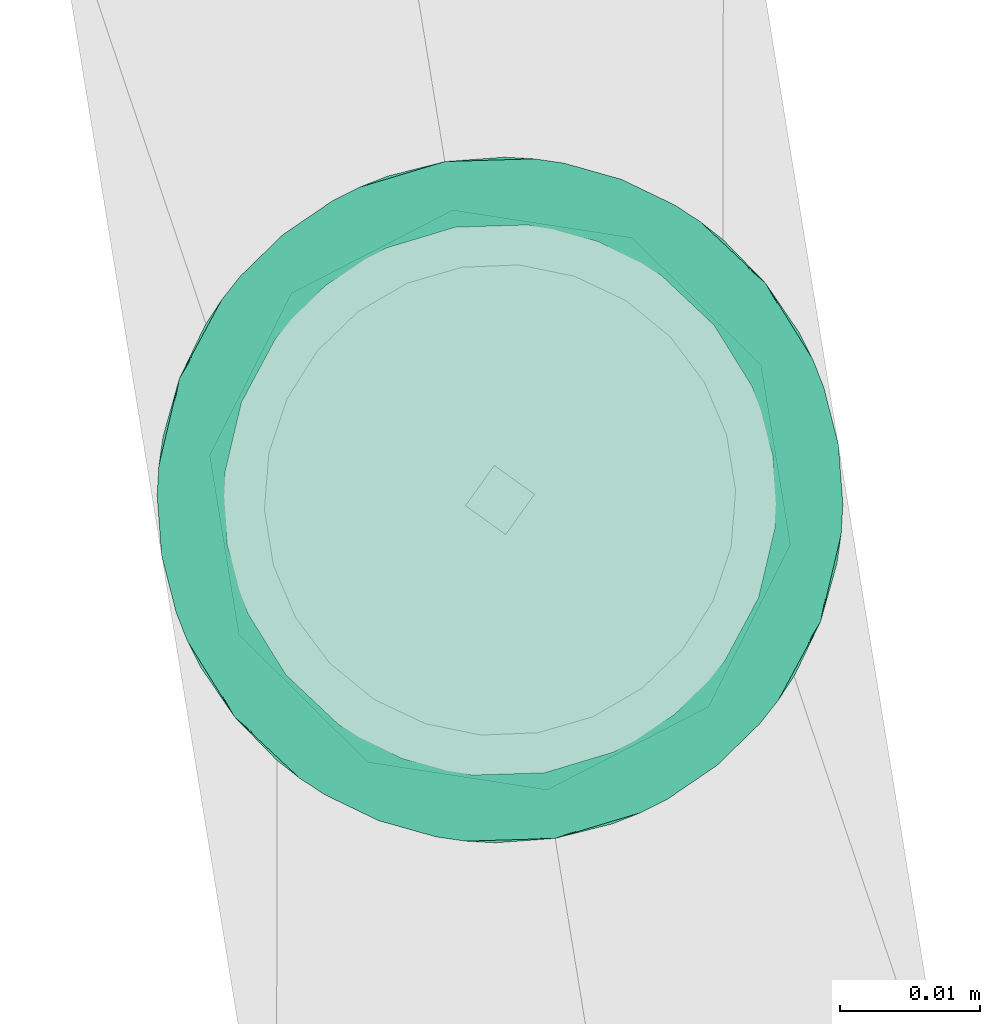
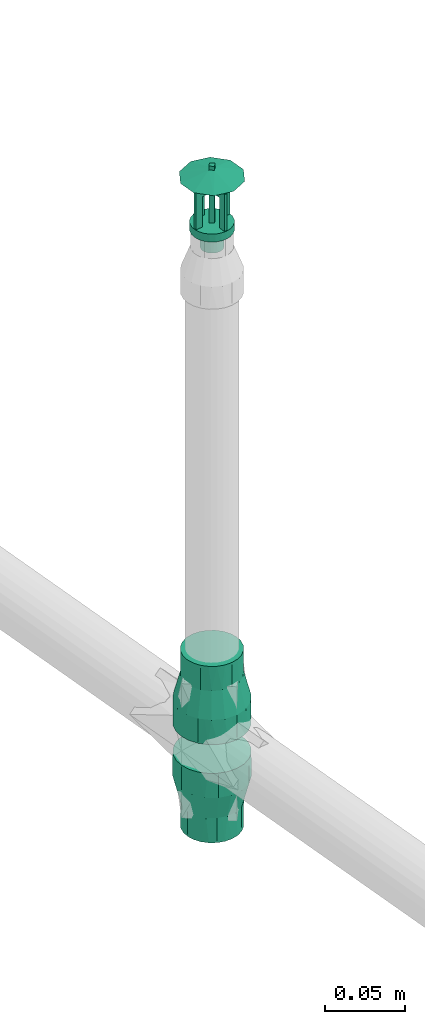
# One storey, part 43 of 56: 2 flow fittings, 1 flow terminal.
"""IFC2X3 building model written with IfcOpenShell, lengths in millimetres."""

from ifc_helpers import new_model, entity, si_unit, converted_unit, derived_unit, direction, frame, origin, origin_with_axes, place, context, subcontext, project, spatial, faceted_brep, source, transform, mapped, material, type_object, element, save


model = new_model("IFC2X3")

# Units and contexts
model_context = context("Model", 3, precision=0.01, world=origin(), true_north=direction((6.12323399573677e-17, 1.0)))
plan_context = context("Plan", 3, precision=1e-05, world=origin_with_axes())
body_context = subcontext(model_context, "Body", "Model", "MODEL_VIEW")
ifc_project = project(units=[converted_unit("PLANEANGLEUNIT", "DEGREE", entity("IfcPositiveLengthMeasure", 0.0174532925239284), si_unit("PLANEANGLEUNIT", "RADIAN"), dimensions=[0, 0, 0, 0, 0, 0, 0]), si_unit("AREAUNIT", "SQUARE_METRE"), si_unit("LENGTHUNIT", "METRE", prefix="MILLI"), si_unit("MASSUNIT", "GRAM", prefix="KILO"), si_unit("POWERUNIT", "WATT"), si_unit("PRESSUREUNIT", "PASCAL", prefix="KILO"), si_unit("FORCEUNIT", "NEWTON", prefix="KILO"), si_unit("ELECTRICVOLTAGEUNIT", "VOLT"), si_unit("ELECTRICCURRENTUNIT", "AMPERE"), si_unit("THERMODYNAMICTEMPERATUREUNIT", "DEGREE_CELSIUS"), si_unit("TIMEUNIT", "SECOND"), si_unit("VOLUMEUNIT", "CUBIC_METRE"), derived_unit("LINEARVELOCITYUNIT", [(si_unit("LENGTHUNIT", "METRE"), 1), (si_unit("TIMEUNIT", "SECOND"), -1)]), derived_unit("VOLUMETRICFLOWRATEUNIT", [(si_unit("VOLUMEUNIT", "CUBIC_METRE"), 1), (si_unit("TIMEUNIT", "SECOND"), -1)]), derived_unit("THERMALTRANSMITTANCEUNIT", [(si_unit("POWERUNIT", "WATT"), 1), (si_unit("THERMODYNAMICTEMPERATUREUNIT", "KELVIN"), -1), (si_unit("AREAUNIT", "SQUARE_METRE"), -1)]), derived_unit("SOUNDPRESSUREUNIT", [(si_unit("PRESSUREUNIT", "PASCAL"), 1)])], contexts=[model_context, plan_context])

# Site, building, storey
site_placement = place(None, frame((-3.09682673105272e-06, 1.93776733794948e-05, 0.0), z_axis=(0.0, 0.0, 1.0), x_axis=(-0.160806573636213, 0.986985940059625, 0.0)))
site = spatial("IfcSite", under=ifc_project, at=site_placement, Name="Default", CompositionType="ELEMENT")
building_placement = place(site_placement, frame((0.0, 0.0, 0.0), z_axis=(0.0, 0.0, 1.0), x_axis=(1.0, -2.77555756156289e-17, 0.0)))
building = spatial("IfcBuilding", under=site, at=building_placement, Name="Bygning (endres i Project Information)", CompositionType="ELEMENT")
storey_placement = place(building_placement, frame((0.0, 0.0, 51360.0000000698), z_axis=(0.0, 0.0, 1.0), x_axis=(1.0, -2.77555756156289e-17, 0.0)))
storey = spatial("IfcBuildingStorey", under=building, at=storey_placement, Name="H01-Nivå D+0,36", CompositionType="ELEMENT", Elevation=51360.0000000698)

# Flow fittings
ifc_material = material(Name="3320.001")
pipe_fitting_type_1 = type_object("IfcPipeFittingType", Name="RS_53_PIF_UN_Reducing-Socket-EN10241_MC_gen:RS_53_PIF_UN_Reducing-Socket-EN10241_MC_gen", PredefinedType="NOTDEFINED", material=ifc_material)
shared_shape_1 = source(origin(), body_context, "Body", "Brep", [
    faceted_brep([(0.0, 0.0, 24.5), (0.0, 6.34106660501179, 23.6651827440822), (0.0, 12.25, 21.2176223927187), (0.0, 17.3241161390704, 17.3241161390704), (0.0, 21.2176223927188, 12.25), (0.0, 23.6651827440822, 6.34106660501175), (0.0, 24.5, 0.0), (0.0, 23.6651827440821, -6.34106660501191), (0.0, 21.2176223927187, -12.2500000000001), (0.0, 17.3241161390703, -17.3241161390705), (0.0, 12.2499999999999, -21.2176223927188), (0.0, 6.34106660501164, -23.6651827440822), (0.0, 0.0, -24.5), (0.0, -6.34106660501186, -23.6651827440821), (0.0, -12.2500000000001, -21.2176223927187), (0.0, -17.3241161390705, -17.3241161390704), (0.0, -21.2176223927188, -12.2499999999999), (0.0, -23.6651827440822, -6.34106660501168), (0.0, -24.5, 0.0), (0.0, -23.6651827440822, 6.34106660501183), (0.0, -21.2176223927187, 12.2500000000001), (0.0, -17.3241161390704, 17.3241161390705), (0.0, -12.25, 21.2176223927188), (0.0, -6.34106660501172, 23.6651827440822), (18.6666666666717, -8.25137606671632, -22.6729794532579), (18.6666666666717, -18.7677686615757, -15.7486780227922), (18.6666666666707, -20.8950763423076, -12.0642027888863), (18.6666666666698, -23.0223840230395, -8.37972755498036), (18.6666666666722, -12.2493529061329, -21.2179959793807), (18.6666666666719, -15.5085607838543, -18.4833370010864), (18.6666666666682, -23.7125607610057, -4.46565710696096), (18.6666666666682, -23.7611920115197, -4.18986377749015), (18.6666666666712, -4.25339922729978, -24.1279629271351), (18.6666666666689, 4.25560674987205, -24.1275736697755), (18.6666666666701, 0.00110376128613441, -24.1277682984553), (18.6666666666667, -24.5, 0.0), (18.6666666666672, 8.25345045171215, -22.6722244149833), (18.6666666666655, 12.2512941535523, -21.2168751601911), (18.6666666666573, 23.0231506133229, -8.37762113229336), (18.6666666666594, 20.8961800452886, -12.062290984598), (18.6666666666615, 18.7692094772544, -15.7469608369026), (18.6666666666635, 15.5102518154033, -18.4819179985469), (18.6666666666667, 24.5, 0.0), (18.6666666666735, 18.7692094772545, 15.7469608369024), (18.666666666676, 20.8961800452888, 12.0622909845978), (18.6666666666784, 23.023150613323, 8.3776211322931), (18.6666666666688, 12.2512941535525, 21.216875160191), (18.6666666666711, 15.5102518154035, 18.4819179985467), (18.6666666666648, 4.25560674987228, 24.1275736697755), (18.6666666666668, 8.25345045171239, 22.6722244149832), (18.6666666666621, -4.25339922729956, 24.1279629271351), (18.6666666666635, 0.00110376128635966, 24.1277682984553), (18.6666666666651, -23.7611920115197, 4.1898637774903), (18.6666666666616, -8.25137606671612, 22.672979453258), (18.666666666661, -12.2493529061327, 21.2179959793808), (18.6666666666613, -15.5085607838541, 18.4833370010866), (18.6666666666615, -18.7677686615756, 15.7486780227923), (18.6666666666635, -23.0223840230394, 8.37972755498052), (18.6666666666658, -23.7125607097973, 4.46565739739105), (18.6666666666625, -20.8950763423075, 12.0642027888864), (37.3333333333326, 19.750000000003, 0.0), (37.3333333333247, 18.5595959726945, -6.75306577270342), (37.3333333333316, 9.87626627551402, -17.1032705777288), (37.3333333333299, 12.5033702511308, -14.8985095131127), (37.3333333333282, 15.1304742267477, -12.6937484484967), (37.3333333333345, 3.43075149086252, -19.4497414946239), (37.333333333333, 6.65350888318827, -18.2765060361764), (37.3333333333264, 16.8450350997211, -9.72340711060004), (37.3333333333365, -3.42859151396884, -19.4501223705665), (37.3333333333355, 0.00107998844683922, -19.4499319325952), (37.3333333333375, -9.87436684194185, -17.1043672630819), (37.333333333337, -6.65147917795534, -18.2772448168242), (37.3333333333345, -19.1544229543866, -3.37756341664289), (37.3333333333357, -18.558845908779, -6.75512683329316), (37.3333333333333, -19.7499999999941, 0.0), (37.3333333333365, -16.8439551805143, -9.72527774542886), (37.3333333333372, -15.1290644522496, -12.6954286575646), (37.3333333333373, -12.5017156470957, -14.8998979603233), (37.3333333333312, -18.5588459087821, 6.755126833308), (37.3333333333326, -19.1544229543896, 3.37756341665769), (37.3333333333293, -15.1290644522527, 12.6954286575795), (37.3333333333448, 18.559595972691, 6.75306577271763), (37.3333333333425, 16.8450350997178, 9.72340711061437), (37.3333333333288, -9.87436684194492, 17.104367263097), (37.3333333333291, -12.5017156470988, 14.8998979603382), (37.3333333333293, -6.65147917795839, 18.2772448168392), (37.3333333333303, -16.8439551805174, 9.72527774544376), (37.333333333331, 0.00107998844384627, 19.4499319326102), (37.3333333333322, 3.43075149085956, 19.4497414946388), (37.3333333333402, 15.1304742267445, 12.6937484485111), (37.333333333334, 6.65350888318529, 18.2765060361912), (37.3333333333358, 9.87626627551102, 17.1032705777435), (37.333333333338, 12.5033702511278, 14.8985095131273), (37.3333333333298, -3.42859151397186, 19.4501223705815), (56.0, 5.11167614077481, -19.0770350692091), (56.0, 9.87500000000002, -17.1040017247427), (56.0, 13.9653589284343, -13.9653589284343), (56.0, 17.1040017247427, -9.87499999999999), (56.0, 19.0770350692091, -5.11167614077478), (56.0, 19.75, 0.0), (56.0, 19.0770350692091, 5.1116761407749), (56.0, 17.1040017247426, 9.8750000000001), (56.0, 13.9653589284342, 13.9653589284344), (56.0, 9.87499999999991, 17.1040017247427), (56.0, 5.11167614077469, 19.0770350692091), (56.0, 0.0, 19.75), (56.0, -5.11167614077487, 19.0770350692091), (56.0, -9.87500000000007, 17.1040017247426), (56.0, -13.9653589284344, 13.9653589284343), (56.0, -17.1040017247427, 9.87499999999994), (56.0, -19.0770350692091, 5.11167614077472), (56.0, -19.75, 0.0), (56.0, -19.0770350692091, -5.11167614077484), (56.0, -17.1040017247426, -9.87500000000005), (56.0, -13.9653589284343, -13.9653589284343), (56.0, -9.87499999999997, -17.1040017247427), (56.0, -5.11167614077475, -19.0770350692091), (56.0, 0.0, -19.75)], [[[0, 1, 2, 3, 4, 5, 6, 7, 8, 9, 10, 11, 12, 13, 14, 15, 16, 17, 18, 19, 20, 21, 22, 23]], [[24, 14, 13]], [[16, 15, 25]], [[16, 25, 26, 27]], [[28, 29, 14]], [[17, 27, 30, 31]], [[31, 18, 17]], [[16, 27, 17]], [[13, 32, 24]], [[25, 15, 29]], [[12, 33, 34, 32]], [[24, 28, 14]], [[14, 29, 15]], [[31, 35, 18]], [[33, 12, 11]], [[36, 10, 37]], [[8, 38, 39, 40]], [[10, 36, 11]], [[8, 7, 38]], [[9, 40, 41]], [[33, 11, 36]], [[8, 40, 9]], [[41, 37, 10]], [[7, 42, 38]], [[7, 6, 42]], [[12, 32, 13]], [[41, 10, 9]], [[42, 6, 5]], [[4, 3, 43]], [[4, 43, 44, 45]], [[46, 47, 2]], [[45, 42, 5]], [[1, 48, 49]], [[43, 3, 47]], [[0, 50, 51, 48]], [[2, 47, 3]], [[50, 0, 23]], [[0, 48, 1]], [[18, 52, 19]], [[53, 22, 54]], [[49, 2, 1]], [[55, 22, 21]], [[35, 52, 18]], [[4, 45, 5]], [[22, 53, 23]], [[21, 56, 55]], [[50, 23, 53]], [[49, 46, 2]], [[20, 56, 21]], [[57, 20, 19]], [[19, 52, 58, 57]], [[55, 54, 22]], [[59, 56, 20, 57]], [[42, 60, 61]], [[41, 62, 37]], [[63, 40, 64]], [[40, 39, 64]], [[33, 36, 65]], [[65, 36, 66]], [[38, 42, 61]], [[64, 39, 67]], [[41, 40, 63]], [[36, 37, 66]], [[62, 41, 63]], [[38, 67, 39]], [[68, 34, 69]], [[68, 32, 34]], [[24, 70, 28]], [[32, 68, 71]], [[72, 35, 31, 30]], [[73, 27, 26]], [[72, 74, 35]], [[26, 75, 73]], [[76, 25, 29]], [[29, 77, 76]], [[70, 24, 71]], [[24, 32, 71]], [[70, 77, 28]], [[76, 75, 25]], [[28, 77, 29]], [[25, 75, 26]], [[73, 30, 27]], [[30, 73, 72]], [[66, 37, 62]], [[69, 34, 33]], [[69, 33, 65]], [[67, 38, 61]], [[78, 58, 79]], [[80, 55, 56]], [[81, 45, 82]], [[78, 59, 57]], [[83, 53, 54]], [[55, 80, 84]], [[79, 58, 52, 35]], [[78, 57, 58]], [[84, 54, 55]], [[85, 50, 53]], [[79, 35, 74]], [[86, 56, 59]], [[84, 83, 54]], [[48, 87, 88]], [[49, 48, 88]], [[59, 78, 86]], [[53, 83, 85]], [[87, 48, 51]], [[81, 60, 42]], [[44, 43, 89]], [[90, 46, 49]], [[47, 46, 91]], [[86, 80, 56]], [[82, 45, 44]], [[49, 88, 90]], [[92, 43, 47]], [[91, 46, 90]], [[51, 50, 93]], [[42, 45, 81]], [[85, 93, 50]], [[44, 89, 82]], [[51, 93, 87]], [[47, 91, 92]], [[89, 43, 92]], [[94, 95, 96, 97, 98, 99, 100, 101, 102, 103, 104, 105, 106, 107, 108, 109, 110, 111, 112, 113, 114, 115, 116, 117]], [[60, 99, 98]], [[97, 96, 64]], [[97, 64, 67, 61]], [[62, 63, 95]], [[61, 60, 98]], [[94, 65, 66]], [[64, 96, 63]], [[117, 68, 69, 65]], [[95, 63, 96]], [[117, 116, 68]], [[77, 70, 115]], [[66, 95, 94]], [[115, 70, 71]], [[113, 112, 73]], [[115, 71, 116]], [[117, 65, 94]], [[97, 61, 98]], [[72, 111, 74]], [[71, 68, 116]], [[113, 76, 114]], [[114, 76, 77]], [[77, 115, 114]], [[113, 73, 75, 76]], [[111, 72, 112]], [[66, 62, 95]], [[72, 73, 112]], [[85, 107, 106]], [[109, 108, 80]], [[109, 80, 86, 78]], [[83, 84, 107]], [[110, 78, 79]], [[79, 111, 110]], [[109, 78, 110]], [[106, 93, 85]], [[80, 108, 84]], [[105, 88, 87, 93]], [[85, 83, 107]], [[107, 84, 108]], [[79, 74, 111]], [[88, 105, 104]], [[90, 103, 91]], [[101, 81, 82, 89]], [[103, 90, 104]], [[101, 100, 81]], [[102, 89, 92]], [[88, 104, 90]], [[101, 89, 102]], [[92, 91, 103]], [[100, 60, 81]], [[100, 99, 60]], [[105, 93, 106]], [[92, 103, 102]]]),
])
flow_fitting_1_placement = place(storey_placement, frame((1000236.26325463, -392286.663841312, 3380.93333333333), z_axis=(2.77555756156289e-17, 1.0, 0.0), x_axis=(0.0, 0.0, 1.0)))
element("IfcFlowFitting", 1, at=flow_fitting_1_placement, inside=storey, type_object=pipe_fitting_type_1, material=ifc_material, Name="RS_53_PIF_UN_Reducing-Socket-EN10241_MC_gen:RS_53_PIF_UN_Reducing-Socket-EN10241_MC_gen", ObjectType="RS_53_PIF_UN_Reducing-Socket-EN10241_MC_gen:RS_53_PIF_UN_Reducing-Socket-EN10241_MC_gen", context=body_context, shape_type="MappedRepresentation", body=[
    mapped(shared_shape_1, transform((0.0, 0.0, 0.0), scale=1.0)),
])
pipe_fitting_type_2 = type_object("IfcPipeFittingType", Name="RS_53_PIF_UN_Reducing-Socket-EN10241_MC_gen:RS_53_PIF_UN_Reducing-Socket-EN10241_MC_gen", PredefinedType="NOTDEFINED", material=ifc_material)
shared_shape_2 = source(origin(), body_context, "Body", "Brep", [
    faceted_brep([(0.0, -12.25, 21.2176223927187), (0.0, -6.34106660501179, 23.6651827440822), (0.0, 0.0, 24.5), (0.0, 6.34106660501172, 23.6651827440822), (0.0, 12.25, 21.2176223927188), (0.0, 17.3241161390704, 17.3241161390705), (0.0, 21.2176223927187, 12.2500000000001), (0.0, 23.6651827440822, 6.34106660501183), (0.0, 24.5, 0.0), (0.0, 23.6651827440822, -6.34106660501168), (0.0, 21.2176223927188, -12.2499999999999), (0.0, 17.3241161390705, -17.3241161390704), (0.0, 12.2500000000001, -21.2176223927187), (0.0, 6.34106660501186, -23.6651827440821), (0.0, 0.0, -24.5), (0.0, -6.34106660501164, -23.6651827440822), (0.0, -12.2499999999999, -21.2176223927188), (0.0, -17.3241161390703, -17.3241161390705), (0.0, -21.2176223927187, -12.2500000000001), (0.0, -23.6651827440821, -6.34106660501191), (0.0, -24.5, 0.0), (0.0, -23.6651827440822, 6.34106660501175), (0.0, -21.2176223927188, 12.25), (0.0, -17.3241161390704, 17.3241161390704), (18.6666666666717, 8.25137606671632, -22.6729794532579), (18.6666666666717, 18.7677686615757, -15.7486780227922), (18.6666666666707, 20.8950763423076, -12.0642027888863), (18.6666666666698, 23.0223840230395, -8.37972755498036), (18.6666666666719, 15.5085607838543, -18.4833370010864), (18.6666666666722, 12.2493529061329, -21.2179959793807), (18.6666666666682, 23.7611920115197, -4.18986377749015), (18.6666666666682, 23.7125607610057, -4.46565710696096), (18.6666666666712, 4.25339922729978, -24.1279629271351), (18.6666666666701, -0.00110376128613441, -24.1277682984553), (18.6666666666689, -4.25560674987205, -24.1275736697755), (18.6666666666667, 24.5, 0.0), (18.6666666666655, -12.2512941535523, -21.2168751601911), (18.6666666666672, -8.25345045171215, -22.6722244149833), (18.6666666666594, -20.8961800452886, -12.062290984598), (18.6666666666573, -23.0231506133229, -8.37762113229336), (18.6666666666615, -18.7692094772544, -15.7469608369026), (18.6666666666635, -15.5102518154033, -18.4819179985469), (18.6666666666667, -24.5, 0.0), (18.6666666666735, -18.7692094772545, 15.7469608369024), (18.666666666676, -20.8961800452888, 12.0622909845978), (18.6666666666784, -23.023150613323, 8.3776211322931), (18.6666666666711, -15.5102518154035, 18.4819179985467), (18.6666666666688, -12.2512941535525, 21.216875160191), (18.6666666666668, -8.25345045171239, 22.6722244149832), (18.6666666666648, -4.25560674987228, 24.1275736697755), (18.6666666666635, -0.00110376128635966, 24.1277682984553), (18.6666666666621, 4.25339922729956, 24.1279629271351), (18.6666666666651, 23.7611920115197, 4.1898637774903), (18.666666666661, 12.2493529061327, 21.2179959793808), (18.6666666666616, 8.25137606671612, 22.672979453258), (18.6666666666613, 15.5085607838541, 18.4833370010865), (18.6666666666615, 18.7677686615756, 15.7486780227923), (18.6666666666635, 23.0223840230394, 8.37972755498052), (18.6666666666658, 23.7125607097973, 4.46565739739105), (18.6666666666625, 20.8950763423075, 12.0642027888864), (37.3333333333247, -18.5595959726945, -6.75306577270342), (37.3333333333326, -19.750000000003, 0.0), (37.3333333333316, -9.87626627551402, -17.1032705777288), (37.3333333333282, -15.1304742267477, -12.6937484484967), (37.3333333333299, -12.5033702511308, -14.8985095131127), (37.3333333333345, -3.43075149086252, -19.4497414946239), (37.333333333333, -6.65350888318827, -18.2765060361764), (37.3333333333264, -16.8450350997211, -9.72340711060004), (37.3333333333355, -0.00107998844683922, -19.4499319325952), (37.3333333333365, 3.42859151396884, -19.4501223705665), (37.3333333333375, 9.87436684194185, -17.1043672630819), (37.333333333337, 6.65147917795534, -18.2772448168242), (37.3333333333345, 19.1544229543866, -3.37756341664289), (37.3333333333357, 18.558845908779, -6.75512683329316), (37.3333333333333, 19.7499999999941, 0.0), (37.3333333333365, 16.8439551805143, -9.72527774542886), (37.3333333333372, 15.1290644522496, -12.6954286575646), (37.3333333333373, 12.5017156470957, -14.8998979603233), (37.3333333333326, 19.1544229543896, 3.37756341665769), (37.3333333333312, 18.5588459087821, 6.755126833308), (37.3333333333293, 15.1290644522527, 12.6954286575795), (37.3333333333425, -16.8450350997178, 9.72340711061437), (37.3333333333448, -18.559595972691, 6.75306577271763), (37.3333333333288, 9.87436684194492, 17.104367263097), (37.3333333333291, 12.5017156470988, 14.8998979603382), (37.3333333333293, 6.65147917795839, 18.2772448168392), (37.3333333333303, 16.8439551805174, 9.72527774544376), (37.3333333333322, -3.43075149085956, 19.4497414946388), (37.333333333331, -0.00107998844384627, 19.4499319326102), (37.3333333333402, -15.1304742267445, 12.6937484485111), (37.333333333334, -6.65350888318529, 18.2765060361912), (37.3333333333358, -9.87626627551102, 17.1032705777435), (37.333333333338, -12.5033702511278, 14.8985095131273), (37.3333333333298, 3.42859151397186, 19.4501223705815), (56.0, 0.0, -19.75), (56.0, 5.11167614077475, -19.0770350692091), (56.0, 9.87499999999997, -17.1040017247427), (56.0, 13.9653589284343, -13.9653589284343), (56.0, 17.1040017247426, -9.87500000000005), (56.0, 19.0770350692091, -5.11167614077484), (56.0, 19.75, 0.0), (56.0, 19.0770350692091, 5.11167614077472), (56.0, 17.1040017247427, 9.87499999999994), (56.0, 13.9653589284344, 13.9653589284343), (56.0, 9.87500000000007, 17.1040017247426), (56.0, 5.11167614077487, 19.0770350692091), (56.0, 0.0, 19.75), (56.0, -5.11167614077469, 19.0770350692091), (56.0, -9.87499999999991, 17.1040017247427), (56.0, -13.9653589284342, 13.9653589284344), (56.0, -17.1040017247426, 9.8750000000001), (56.0, -19.0770350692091, 5.1116761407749), (56.0, -19.75, 0.0), (56.0, -19.0770350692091, -5.11167614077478), (56.0, -17.1040017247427, -9.87499999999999), (56.0, -13.9653589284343, -13.9653589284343), (56.0, -9.87500000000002, -17.1040017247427), (56.0, -5.11167614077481, -19.0770350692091)], [[[0, 1, 2, 3, 4, 5, 6, 7, 8, 9, 10, 11, 12, 13, 14, 15, 16, 17, 18, 19, 20, 21, 22, 23]], [[13, 12, 24]], [[25, 11, 10]], [[26, 25, 10, 27]], [[12, 28, 29]], [[9, 30, 31, 27]], [[9, 8, 30]], [[9, 27, 10]], [[24, 32, 13]], [[28, 11, 25]], [[33, 34, 14, 32]], [[12, 29, 24]], [[11, 28, 12]], [[8, 35, 30]], [[15, 14, 34]], [[36, 16, 37]], [[38, 39, 18, 40]], [[15, 37, 16]], [[39, 19, 18]], [[41, 40, 17]], [[37, 15, 34]], [[17, 40, 18]], [[16, 36, 41]], [[39, 42, 19]], [[42, 20, 19]], [[13, 32, 14]], [[17, 16, 41]], [[21, 20, 42]], [[43, 23, 22]], [[44, 43, 22, 45]], [[0, 46, 47]], [[21, 42, 45]], [[48, 49, 1]], [[46, 23, 43]], [[50, 51, 2, 49]], [[23, 46, 0]], [[3, 2, 51]], [[1, 49, 2]], [[7, 52, 8]], [[53, 4, 54]], [[1, 0, 48]], [[5, 4, 55]], [[8, 52, 35]], [[21, 45, 22]], [[3, 54, 4]], [[55, 56, 5]], [[54, 3, 51]], [[0, 47, 48]], [[5, 56, 6]], [[7, 6, 57]], [[7, 57, 58, 52]], [[4, 53, 55]], [[6, 56, 59, 57]], [[60, 61, 42]], [[36, 62, 41]], [[63, 40, 64]], [[63, 38, 40]], [[65, 37, 34]], [[66, 37, 65]], [[60, 42, 39]], [[67, 38, 63]], [[64, 40, 41]], [[66, 36, 37]], [[64, 41, 62]], [[38, 67, 39]], [[68, 33, 69]], [[33, 32, 69]], [[29, 70, 24]], [[71, 69, 32]], [[72, 31, 30, 35]], [[26, 27, 73]], [[35, 74, 72]], [[73, 75, 26]], [[28, 25, 76]], [[76, 77, 28]], [[71, 24, 70]], [[71, 32, 24]], [[29, 77, 70]], [[25, 75, 76]], [[28, 77, 29]], [[26, 75, 25]], [[27, 31, 73]], [[72, 73, 31]], [[62, 36, 66]], [[34, 33, 68]], [[65, 34, 68]], [[60, 39, 67]], [[78, 58, 79]], [[56, 55, 80]], [[81, 45, 82]], [[57, 59, 79]], [[53, 54, 83]], [[84, 80, 55]], [[78, 35, 52, 58]], [[58, 57, 79]], [[55, 53, 84]], [[54, 51, 85]], [[74, 35, 78]], [[59, 56, 86]], [[53, 83, 84]], [[87, 88, 49]], [[87, 49, 48]], [[86, 79, 59]], [[85, 83, 54]], [[50, 49, 88]], [[42, 61, 82]], [[89, 43, 44]], [[48, 47, 90]], [[91, 47, 46]], [[56, 80, 86]], [[44, 45, 81]], [[90, 87, 48]], [[46, 43, 92]], [[90, 47, 91]], [[93, 51, 50]], [[82, 45, 42]], [[51, 93, 85]], [[81, 89, 44]], [[88, 93, 50]], [[92, 91, 46]], [[92, 43, 89]], [[94, 95, 96, 97, 98, 99, 100, 101, 102, 103, 104, 105, 106, 107, 108, 109, 110, 111, 112, 113, 114, 115, 116, 117]], [[113, 112, 61]], [[63, 115, 114]], [[67, 63, 114, 60]], [[116, 64, 62]], [[113, 61, 60]], [[66, 65, 117]], [[64, 115, 63]], [[68, 69, 94, 65]], [[115, 64, 116]], [[69, 95, 94]], [[96, 70, 77]], [[117, 116, 66]], [[71, 70, 96]], [[73, 99, 98]], [[95, 71, 96]], [[117, 65, 94]], [[113, 60, 114]], [[74, 100, 72]], [[95, 69, 71]], [[97, 76, 98]], [[77, 76, 97]], [[97, 96, 77]], [[75, 73, 98, 76]], [[99, 72, 100]], [[116, 62, 66]], [[99, 73, 72]], [[105, 104, 85]], [[80, 103, 102]], [[86, 80, 102, 79]], [[104, 84, 83]], [[78, 79, 101]], [[101, 100, 78]], [[101, 79, 102]], [[85, 93, 105]], [[84, 103, 80]], [[88, 87, 106, 93]], [[104, 83, 85]], [[103, 84, 104]], [[100, 74, 78]], [[107, 106, 87]], [[91, 108, 90]], [[81, 82, 110, 89]], [[107, 90, 108]], [[82, 111, 110]], [[92, 89, 109]], [[90, 107, 87]], [[109, 89, 110]], [[108, 91, 92]], [[82, 61, 111]], [[61, 112, 111]], [[105, 93, 106]], [[109, 108, 92]]]),
])
flow_fitting_2_placement = place(storey_placement, frame((1000236.26325463, -392286.663841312, 3359.06666666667), z_axis=(1.0, -2.77555756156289e-17, 0.0), x_axis=(0.0, 0.0, -1.0)))
element("IfcFlowFitting", 2, at=flow_fitting_2_placement, inside=storey, type_object=pipe_fitting_type_2, material=ifc_material, Name="RS_53_PIF_UN_Reducing-Socket-EN10241_MC_gen:RS_53_PIF_UN_Reducing-Socket-EN10241_MC_gen", ObjectType="RS_53_PIF_UN_Reducing-Socket-EN10241_MC_gen:RS_53_PIF_UN_Reducing-Socket-EN10241_MC_gen", context=body_context, shape_type="MappedRepresentation", body=[
    mapped(shared_shape_2, transform((0.0, 0.0, 0.0), scale=1.0)),
])

# Flow terminal
fire_suppression_terminal_type = type_object("IfcFireSuppressionTerminalType", Name="SU-15-K80-68DGR-STD:SU-15-K80-68DGR-STD", PredefinedType="NOTDEFINED", material=ifc_material)
shared_shape_3 = source(origin(), body_context, "Body", "Brep", [
    faceted_brep([(-2.5, 0.0, 62.0), (0.0, -2.5, 62.0), (2.5, 0.0, 62.0), (0.0, 2.5, 62.0), (-2.5, 0.0, 59.0), (0.0, 2.5, 59.0), (2.5, 0.0, 59.0), (0.0, -2.5, 59.0)], [[[0, 1, 2, 3]], [[4, 5, 6, 7]], [[0, 4, 7, 1]], [[7, 6, 2, 1]], [[2, 6, 5, 3]], [[5, 4, 0, 3]]]),
    faceted_brep([(1.0, -13.5, 47.0), (1.0, -13.5, 19.0), (1.0, -8.5, 19.0), (1.0, -8.5, 42.0), (1.0, 8.5, 42.0), (1.0, 8.5, 19.0), (1.0, 13.5, 19.0), (1.0, 13.5, 47.0), (-1.0, -13.5, 47.0), (-1.0, 13.5, 47.0), (-1.0, 13.5, 19.0), (-1.0, 8.5, 19.0), (-1.0, 8.5, 42.0), (-1.0, -8.5, 42.0), (-1.0, -8.5, 19.0), (-1.0, -13.5, 19.0)], [[[0, 1, 2, 3, 4, 5, 6, 7]], [[8, 9, 10, 11, 12, 13, 14, 15]], [[1, 0, 8, 15]], [[2, 1, 15, 14]], [[3, 2, 14, 13]], [[4, 3, 13, 12]], [[5, 4, 12, 11]], [[6, 5, 11, 10]], [[7, 6, 10, 9]], [[0, 7, 9, 8]]]),
    faceted_brep([(-13.5, 1.0, 47.0), (13.5, 1.0, 47.0), (13.5, 1.0, 19.0), (8.5, 1.0, 19.0), (8.5, 1.0, 42.0), (-8.5, 1.0, 42.0), (-8.5, 1.0, 19.0), (-13.5, 1.0, 19.0), (-13.5, -1.0, 47.0), (-13.5, -1.0, 19.0), (-8.5, -1.0, 19.0), (-8.5, -1.0, 42.0), (8.5, -1.0, 42.0), (8.5, -1.0, 19.0), (13.5, -1.0, 19.0), (13.5, -1.0, 47.0)], [[[0, 1, 2, 3, 4, 5, 6, 7]], [[8, 9, 10, 11, 12, 13, 14, 15]], [[1, 0, 8, 15]], [[2, 1, 15, 14]], [[3, 2, 14, 13]], [[4, 3, 13, 12]], [[5, 4, 12, 11]], [[6, 5, 11, 10]], [[7, 6, 10, 9]], [[0, 7, 9, 8]]]),
    faceted_brep([(0.0, 2.5, 59.0), (-2.5, 0.0, 59.0), (0.0, -2.5, 59.0), (2.5, 0.0, 59.0), (6.4893568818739, 19.9721868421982, 53.0), (16.9893568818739, 12.3434902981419, 53.0), (21.0, 0.0, 53.0), (16.989356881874, -12.3434902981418, 53.0), (6.48935688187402, -19.9721868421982, 53.0), (-6.48935688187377, -19.9721868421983, 53.0), (-16.9893568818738, -12.343490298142, 53.0), (-21.0, 0.0, 53.0), (-16.9893568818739, 12.3434902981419, 53.0), (-6.48935688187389, 19.9721868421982, 53.0)], [[[0, 1, 2, 3]], [[4, 5, 6, 7, 8, 9, 10, 11, 12, 13]], [[6, 3, 7]], [[2, 8, 7]], [[7, 3, 2]], [[2, 1, 10]], [[2, 10, 9]], [[10, 1, 11]], [[2, 9, 8]], [[11, 1, 12]], [[0, 13, 12]], [[12, 1, 0]], [[0, 3, 5]], [[0, 5, 4]], [[5, 3, 6]], [[0, 4, 13]]]),
    faceted_brep([(-2.5, 0.0, 53.0), (0.0, -2.5, 53.0), (2.5, 0.0, 53.0), (0.0, 2.5, 53.0), (-2.5, 0.0, 19.0), (0.0, 2.5, 19.0), (2.5, 0.0, 19.0), (0.0, -2.5, 19.0)], [[[0, 1, 2, 3]], [[4, 5, 6, 7]], [[0, 4, 7, 1]], [[7, 6, 2, 1]], [[2, 6, 5, 3]], [[5, 4, 0, 3]]]),
    faceted_brep([(3.62346663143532, -13.5229615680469, 19.0), (7.0, -12.1243556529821, 19.0), (9.89949493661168, -9.89949493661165, 19.0), (12.1243556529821, -7.0, 19.0), (13.522961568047, -3.62346663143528, 19.0), (14.0, 0.0, 19.0), (13.522961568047, 3.62346663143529, 19.0), (12.1243556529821, 7.0, 19.0), (9.89949493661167, 9.89949493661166, 19.0), (7.0, 12.1243556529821, 19.0), (3.62346663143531, 13.522961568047, 19.0), (0.0, 14.0, 19.0), (-3.62346663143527, 13.522961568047, 19.0), (-7.0, 12.1243556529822, 19.0), (-9.89949493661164, 9.89949493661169, 19.0), (-12.1243556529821, 7.0, 19.0), (-13.5229615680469, 3.62346663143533, 19.0), (-14.0, 0.0, 19.0), (-13.5229615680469, -3.62346663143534, 19.0), (-12.1243556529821, -7.0, 19.0), (-9.89949493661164, -9.89949493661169, 19.0), (-7.0, -12.1243556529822, 19.0), (-3.62346663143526, -13.522961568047, 19.0), (0.0, -14.0, 19.0), (9.89949493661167, 9.89949493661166, 13.0), (12.1243556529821, 7.0, 13.0), (13.522961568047, 3.62346663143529, 13.0), (14.0, 0.0, 13.0), (13.522961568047, -3.62346663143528, 13.0), (12.1243556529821, -7.0, 13.0), (9.89949493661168, -9.89949493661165, 13.0), (7.0, -12.1243556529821, 13.0), (3.62346663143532, -13.5229615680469, 13.0), (0.0, -14.0, 13.0), (-3.62346663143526, -13.522961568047, 13.0), (-7.0, -12.1243556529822, 13.0), (-9.89949493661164, -9.89949493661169, 13.0), (-12.1243556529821, -7.0, 13.0), (-13.5229615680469, -3.62346663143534, 13.0), (-14.0, 0.0, 13.0), (-13.5229615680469, 3.62346663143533, 13.0), (-12.1243556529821, 7.0, 13.0), (-9.89949493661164, 9.89949493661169, 13.0), (-7.0, 12.1243556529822, 13.0), (-3.62346663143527, 13.522961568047, 13.0), (0.0, 14.0, 13.0), (3.62346663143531, 13.522961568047, 13.0), (7.0, 12.1243556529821, 13.0)], [[[0, 1, 2, 3, 4, 5, 6, 7, 8, 9, 10, 11, 12, 13, 14, 15, 16, 17, 18, 19, 20, 21, 22, 23]], [[24, 25, 26, 27, 28, 29, 30, 31, 32, 33, 34, 35, 36, 37, 38, 39, 40, 41, 42, 43, 44, 45, 46, 47]], [[38, 18, 17, 39]], [[37, 19, 18, 38]], [[21, 20, 36, 35]], [[37, 36, 20, 19]], [[22, 21, 35, 34]], [[23, 22, 34, 33]], [[32, 0, 23, 33]], [[31, 1, 0, 32]], [[3, 2, 30, 29]], [[31, 30, 2, 1]], [[4, 3, 29, 28]], [[5, 4, 28, 27]], [[26, 6, 5, 27]], [[25, 7, 6, 26]], [[9, 8, 24, 47]], [[25, 24, 8, 7]], [[10, 9, 47, 46]], [[11, 10, 46, 45]], [[44, 12, 11, 45]], [[43, 13, 12, 44]], [[15, 14, 42, 41]], [[43, 42, 14, 13]], [[16, 15, 41, 40]], [[17, 16, 40, 39]]]),
    faceted_brep([(1.94114283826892, -7.24444369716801, 13.0), (3.75000000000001, -6.49519052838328, 13.0), (5.30330085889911, -5.3033008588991, 13.0), (6.49519052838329, -3.75, 13.0), (7.24444369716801, -1.9411428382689, 13.0), (7.5, 0.0, 13.0), (7.24444369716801, 1.9411428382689, 13.0), (6.49519052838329, 3.75, 13.0), (5.30330085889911, 5.3033008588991, 13.0), (3.75000000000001, 6.49519052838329, 13.0), (1.94114283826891, 7.24444369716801, 13.0), (0.0, 7.5, 13.0), (-1.94114283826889, 7.24444369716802, 13.0), (-3.74999999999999, 6.4951905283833, 13.0), (-5.3033008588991, 5.30330085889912, 13.0), (-6.49519052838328, 3.75000000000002, 13.0), (-7.24444369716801, 1.94114283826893, 13.0), (-7.5, 0.0, 13.0), (-7.244443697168, -1.94114283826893, 13.0), (-6.49519052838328, -3.75000000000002, 13.0), (-5.30330085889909, -5.30330085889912, 13.0), (-3.74999999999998, -6.4951905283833, 13.0), (-1.94114283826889, -7.24444369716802, 13.0), (0.0, -7.5, 13.0), (5.30330085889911, 5.3033008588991, 0.0), (6.49519052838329, 3.75, 0.0), (7.24444369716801, 1.9411428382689, 0.0), (7.5, 0.0, 0.0), (7.24444369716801, -1.9411428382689, 0.0), (6.49519052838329, -3.75, 0.0), (5.30330085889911, -5.3033008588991, 0.0), (3.75000000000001, -6.49519052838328, 0.0), (1.94114283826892, -7.24444369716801, 0.0), (0.0, -7.5, 0.0), (-1.94114283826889, -7.24444369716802, 0.0), (-3.74999999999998, -6.4951905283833, 0.0), (-5.30330085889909, -5.30330085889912, 0.0), (-6.49519052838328, -3.75000000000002, 0.0), (-7.244443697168, -1.94114283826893, 0.0), (-7.5, 0.0, 0.0), (-7.24444369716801, 1.94114283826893, 0.0), (-6.49519052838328, 3.75000000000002, 0.0), (-5.3033008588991, 5.30330085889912, 0.0), (-3.74999999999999, 6.4951905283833, 0.0), (-1.94114283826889, 7.24444369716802, 0.0), (0.0, 7.5, 0.0), (1.94114283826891, 7.24444369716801, 0.0), (3.75000000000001, 6.49519052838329, 0.0)], [[[0, 1, 2, 3, 4, 5, 6, 7, 8, 9, 10, 11, 12, 13, 14, 15, 16, 17, 18, 19, 20, 21, 22, 23]], [[24, 25, 26, 27, 28, 29, 30, 31, 32, 33, 34, 35, 36, 37, 38, 39, 40, 41, 42, 43, 44, 45, 46, 47]], [[38, 18, 17, 39]], [[37, 19, 18, 38]], [[21, 20, 36, 35]], [[37, 36, 20, 19]], [[22, 21, 35, 34]], [[23, 22, 34, 33]], [[32, 0, 23, 33]], [[31, 1, 0, 32]], [[3, 2, 30, 29]], [[31, 30, 2, 1]], [[4, 3, 29, 28]], [[5, 4, 28, 27]], [[26, 6, 5, 27]], [[25, 7, 6, 26]], [[9, 8, 24, 47]], [[25, 24, 8, 7]], [[10, 9, 47, 46]], [[11, 10, 46, 45]], [[44, 12, 11, 45]], [[43, 13, 12, 44]], [[15, 14, 42, 41]], [[43, 42, 14, 13]], [[16, 15, 41, 40]], [[17, 16, 40, 39]]]),
])
flow_terminal_placement = place(storey_placement, frame((1000236.26325463, -392286.663841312, 3741.99999993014), z_axis=(0.0, 0.0, 1.0), x_axis=(-1.0, 2.77555756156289e-17, 0.0)))
element("IfcFlowTerminal", 3, at=flow_terminal_placement, inside=storey, type_object=fire_suppression_terminal_type, material=ifc_material, Name="SU-15-K80-68DGR-STD:SU-15-K80-68DGR-STD", ObjectType="SU-15-K80-68DGR-STD:SU-15-K80-68DGR-STD", context=body_context, shape_type="MappedRepresentation", body=[
    mapped(shared_shape_3, transform((0.0, 0.0, 0.0), scale=1.0)),
])

save(model, "model.ifc")
